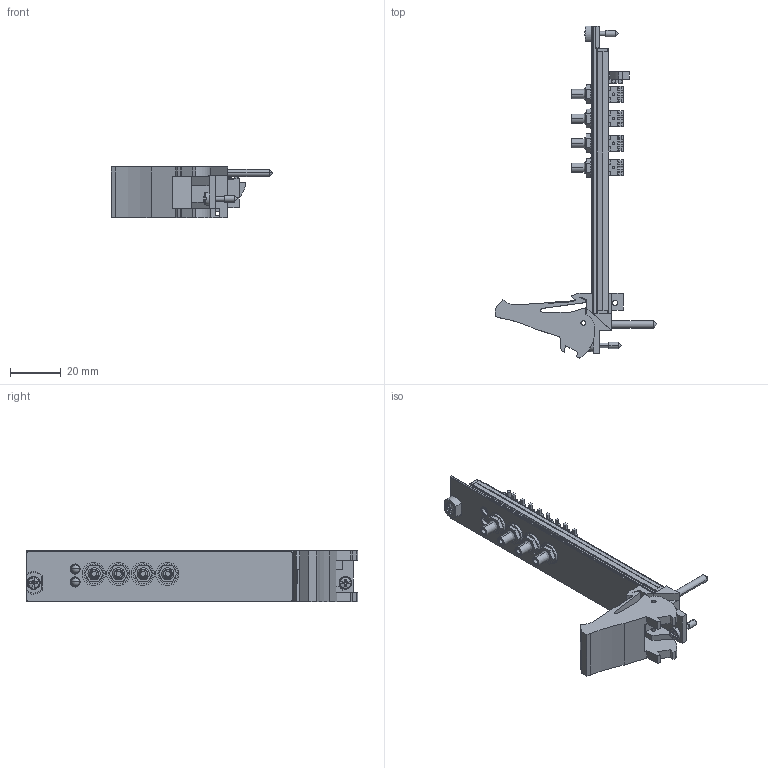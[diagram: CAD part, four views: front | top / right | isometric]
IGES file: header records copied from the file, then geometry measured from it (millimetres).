
Start section:  PTC IGES file: cu_pxie-5442.igs
Global section: file name: cu_pxie-5442.igs; native system: Pro/ENGINEER by Parametric Technology Corporation; preprocessor: 2006080; author: jjorden; organization: Unknown; date: 091218.095141; units: inch
Bounding box: 63.53 x 130.51 x 20.31 mm (x, y, z)
Surface area: 18302.7 mm2 (no closed solid volume)
Topology: 0 solids, 0 shells, 870 faces, 4788 edges, 4780 vertices
Faces by surface type: bspline 626, revolution 244
